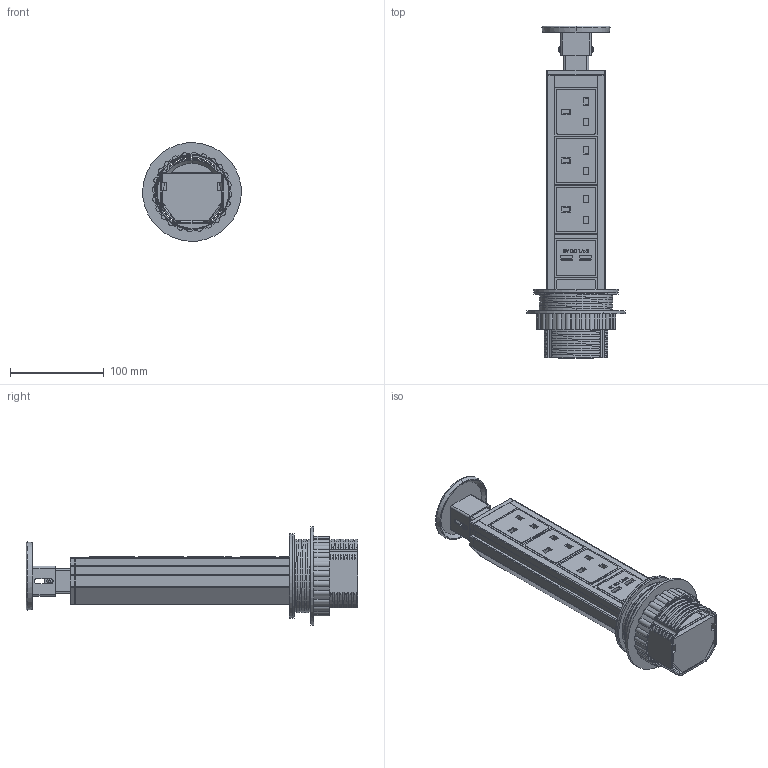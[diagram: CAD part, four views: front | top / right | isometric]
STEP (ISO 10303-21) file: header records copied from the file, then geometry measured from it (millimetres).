
FILE_DESCRIPTION (( 'STEP AP203' ), '1' );
FILE_NAME ('Sensiopod E - Step File.STEP', '2020-07-21T08:18:51', ( '' ), ( '' ), 'SwSTEP 2.0', 'SolidWorks 2019', '' );
FILE_SCHEMA (( 'CONFIG_CONTROL_DESIGN' ));
Length unit declared in the file: millimetre
Products named in the file (6): SensioPod E - Base; SensioPod E - Lid; SensioPod E - Lock nut; Sensiopod E - Step File; SensioPod E - O-ring; SensioPod E - Body
Assembly tree (5 placements, depth 2):
  Sensiopod E - Step File
    SensioPod E - Body
    SensioPod E - Lid
    SensioPod E - Base
    SensioPod E - Lock nut
    SensioPod E - O-ring
Bounding box: 104.82 x 353.2 x 104.82 mm (x, y, z)
Volume: 953064 mm3; surface area: 170164.4 mm2
Topology: 7 solids, 7 shells, 766 faces, 2071 edges, 1363 vertices
Faces by surface type: plane 333, cylinder 260, bspline 151, torus 18, cone 4
Entity records: 111733 total; most frequent: CARTESIAN_POINT 93459, ORIENTED_EDGE 4142, DIRECTION 3114, EDGE_CURVE 2071, VERTEX_POINT 1363, LINE 1096, VECTOR 1096, AXIS2_PLACEMENT_3D 1009
